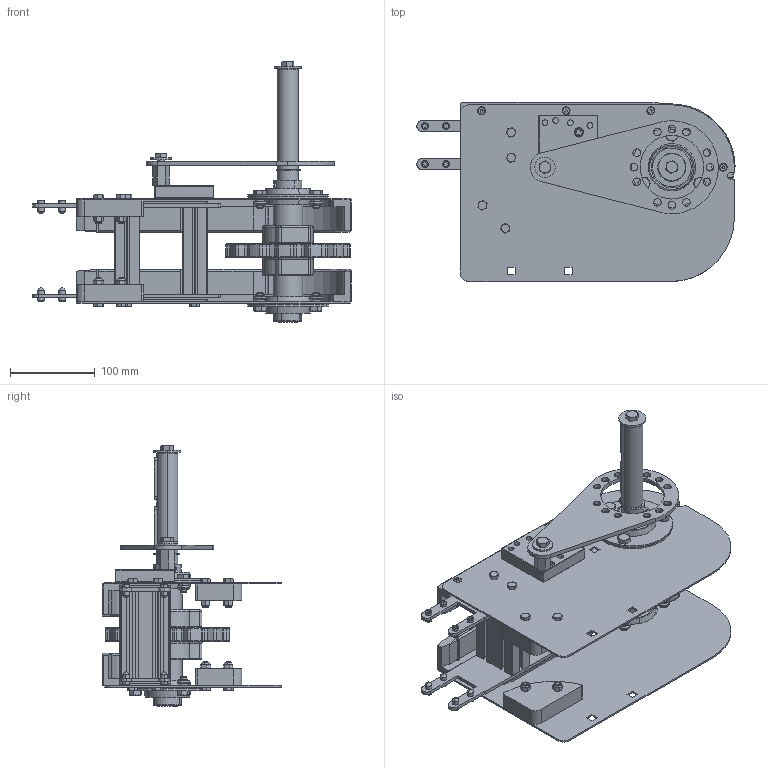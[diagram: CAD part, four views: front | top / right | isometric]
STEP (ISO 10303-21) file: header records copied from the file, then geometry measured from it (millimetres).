
FILE_DESCRIPTION (( 'STEP AP214' ), '1' );
FILE_NAME ('2000.450.163.STEP', '2021-06-18T07:29:16', ( 'Localadmin' ), ( 'Microsoft' ), 'SwSTEP 2.0', 'SolidWorks 2018', '' );
FILE_SCHEMA (( 'AUTOMOTIVE_DESIGN' ));
Length unit declared in the file: millimetre
Products named in the file (32): 2000.001.001; GRANI A PUNTA PIATTA UNI 5923_M8x20 UNI 5923; 2000.001.006-2; 084.802.027; RONDELLE FASCIA LARGA UNI 6593 INOX_8.4x32 UNI 6593 INOX; VITI TE UNI 5739 INOX_M8x20 UNI 5739 INOX; 2000.450.003; 2000.450.163; 2000.450.009; VITI TCEI UNI 5931 INOX_M6x30 UNI 5931 INOX; PU008.012.025N; VITI TE UNI 5739 INOX_M6x30 UNI 5739 INOX; GRANI A PUNTA CONICA UNI 5927_M8x16 UNI 5927; VITI TE UNI 5739 INOX_M6x20 UNI 5739 INOX; VITI TSEI UNI 5933 INOX_0410UNI5933A2; 663151_NS880T12R25; 084.312.006; SBPF205; 084.808.005-1; CHIAVETTE_A 8x7x50 UNI 6604-69; 2000.450.002; 2000.450.001; DADI ESAGONALI AUTOBLOCCANTI UNI 7473 INOX_M6 UNI 7473 INOX; 2000.450.102-1; 2000.450.008; 2000.001.011; VITI TE UNI 5739 INOX_M8x16 UNI 5739 INOX; 2000.001.003-3; 2000.001.026; RONDELLE FASCIA LARGA UNI 6593 INOX_8.4x24 UNI 6593 INOX; 2000.001.004-3; Circlip DIN 471 - 25 x 1.2_Circlip DIN 471 - 25 x 1.2
Assembly tree (77 placements, depth 2):
  2000.450.163
    084.802.027
    2000.001.006-2  x2
    2000.001.001  x2
    2000.001.004-3
    2000.001.026  x2
    2000.001.003-3
    2000.001.011
    2000.450.102-1
    2000.450.001  x2
    CHIAVETTE_A 8x7x50 UNI 6604-69  x3
    SBPF205  x2
    663151_NS880T12R25
    VITI TSEI UNI 5933 INOX_0410UNI5933A2  x8
    GRANI A PUNTA CONICA UNI 5927_M8x16 UNI 5927  x8
    VITI TCEI UNI 5931 INOX_M6x30 UNI 5931 INOX  x2
    VITI TE UNI 5739 INOX_M8x20 UNI 5739 INOX
    RONDELLE FASCIA LARGA UNI 6593 INOX_8.4x32 UNI 6593 INOX
    GRANI A PUNTA PIATTA UNI 5923_M8x20 UNI 5923
    Circlip DIN 471 - 25 x 1.2_Circlip DIN 471 - 25 x 1.2
    RONDELLE FASCIA LARGA UNI 6593 INOX_8.4x24 UNI 6593 INOX
    VITI TE UNI 5739 INOX_M8x16 UNI 5739 INOX  x7
    2000.450.008
    DADI ESAGONALI AUTOBLOCCANTI UNI 7473 INOX_M6 UNI 7473 INOX  x4
    2000.450.002  x2
    084.808.005-1
    084.312.006  x6
    VITI TE UNI 5739 INOX_M6x20 UNI 5739 INOX  x6
    VITI TE UNI 5739 INOX_M6x30 UNI 5739 INOX  x4
    PU008.012.025N
    2000.450.009
    2000.450.003  x2
Bounding box: 376.25 x 211.8 x 307.83 mm (x, y, z)
Volume: 1654113.3 mm3; surface area: 833348.9 mm2
Topology: 75 solids, 81 shells, 2225 faces, 5365 edges, 3347 vertices
Faces by surface type: plane 913, cylinder 730, cone 330, torus 188, bspline 64
Entity records: 40784 total; most frequent: CARTESIAN_POINT 7816, DIRECTION 6963, ORIENTED_EDGE 6230, EDGE_CURVE 3117, AXIS2_PLACEMENT_3D 2698, VERTEX_POINT 1953, VECTOR 1567, LINE 1567
